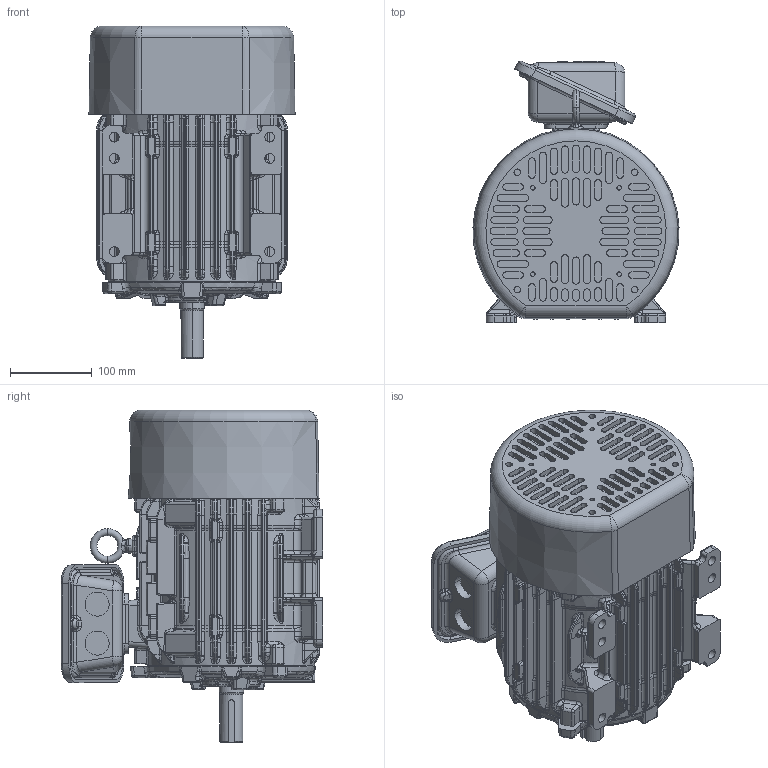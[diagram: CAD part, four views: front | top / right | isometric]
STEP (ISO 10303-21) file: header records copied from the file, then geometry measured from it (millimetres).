
FILE_DESCRIPTION((''),'2;1');
FILE_NAME('180_TOP_ASM_ASM','2020-09-04T04:53:52',('EMD2341'),('Nidec Motor Corporation'),'CREO PARAMETRIC BY PTC INC, 2019080','CREO PARAMETRIC BY PTC INC, 2019080','');
FILE_SCHEMA(('CONFIG_CONTROL_DESIGN'));
Length unit declared in the file: inch
Products named in the file (10): 112_TOP_MOUNT; 180_DE_BRKT; 0133167; 180_CAST_GSK_OBB; 112_CAST_IEC; 180_CAST_GSK_OBC; 180_CAST_OBC; 180_STL_FCVR; 112_SHAFT; 180_TOP_ASM_ASM
Assembly tree (9 placements, depth 2):
  180_TOP_ASM_ASM
    112_TOP_MOUNT
    180_DE_BRKT
    0133167
    180_CAST_GSK_OBB
    112_CAST_IEC
    180_CAST_GSK_OBC
    180_CAST_OBC
    180_STL_FCVR
    112_SHAFT
Bounding box: 252 x 320.22 x 405.97 mm (x, y, z)
Volume: 14340012.3 mm3; surface area: 800168.6 mm2
Topology: 9 solids, 10 shells, 4333 faces, 9974 edges, 5734 vertices
Faces by surface type: bspline 1855, cylinder 1008, plane 805, extrusion 273, torus 227, sphere 119, cone 46
Entity records: 204541 total; most frequent: CARTESIAN_POINT 119661, ORIENTED_EDGE 19928, DIRECTION 14066, EDGE_CURVE 9966, VERTEX_POINT 5734, AXIS2_PLACEMENT_3D 5328, EDGE_LOOP 4436, FACE_OUTER_BOUND 4333
